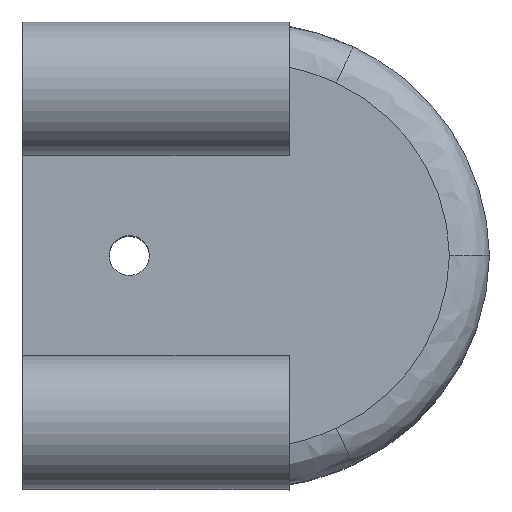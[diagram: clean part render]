
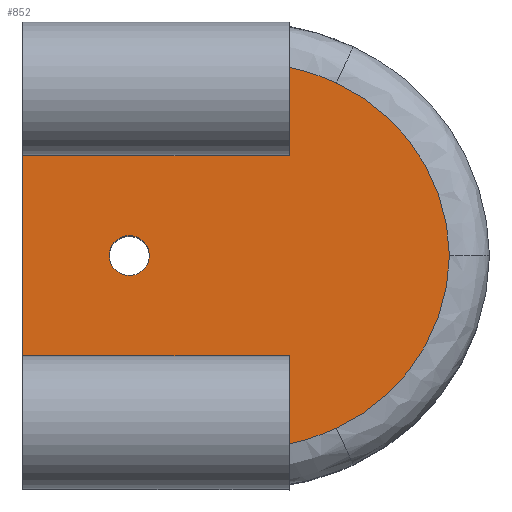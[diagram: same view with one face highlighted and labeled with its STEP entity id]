
A CAD part, top view. The second image highlights one B-rep face of the part: STEP entity #852.
In plain terms, the highlighted free-form (B-spline) face has degree [1, 1] with [2, 2] control points.
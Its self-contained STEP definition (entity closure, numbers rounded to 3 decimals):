
#112=CARTESIAN_POINT('',(27.142,12.291,-0.141));
#113=VERTEX_POINT('',#112);
#187=CARTESIAN_POINT('',(27.142,5.677,-0.141));
#188=VERTEX_POINT('',#187);
#203=CARTESIAN_POINT('',(7.142,5.677,-0.141));
#204=VERTEX_POINT('',#203);
#211=CARTESIAN_POINT('',(7.142,5.677,-0.141));
#212=DIRECTION('',(1.0,0.,0.0));
#213=VECTOR('',#212,20.);
#214=LINE('',#211,#213);
#215=EDGE_CURVE('',#204,#188,#214,.T.);
#280=CARTESIAN_POINT('',(27.142,5.677,-0.141));
#281=DIRECTION('',(0.,1.0,0.0));
#282=VECTOR('',#281,6.614);
#283=LINE('',#280,#282);
#284=EDGE_CURVE('',#188,#113,#283,.T.);
#308=CARTESIAN_POINT('',(27.142,-15.938,-0.141));
#309=VERTEX_POINT('',#308);
#442=CARTESIAN_POINT('',(27.142,-9.323,-0.141));
#443=VERTEX_POINT('',#442);
#452=CARTESIAN_POINT('',(7.142,-9.323,-0.141));
#453=VERTEX_POINT('',#452);
#454=CARTESIAN_POINT('',(27.142,-9.323,-0.141));
#455=DIRECTION('',(-1.0,0.,0.0));
#456=VECTOR('',#455,20.0);
#457=LINE('',#454,#456);
#458=EDGE_CURVE('',#443,#453,#457,.T.);
#544=CARTESIAN_POINT('',(27.142,-15.938,-0.141));
#545=DIRECTION('',(0.,1.0,0.0));
#546=VECTOR('',#545,6.614);
#547=LINE('',#544,#546);
#548=EDGE_CURVE('',#309,#443,#547,.T.);
#790=CARTESIAN_POINT('',(7.142,12.291,-0.141));
#791=CARTESIAN_POINT('',(39.142,12.291,-0.141));
#792=CARTESIAN_POINT('',(7.142,-15.938,-0.141));
#793=CARTESIAN_POINT('',(39.142,-15.938,-0.141));
#794=B_SPLINE_SURFACE_WITH_KNOTS('',1,1,((#790,#792),(#791,#793)),.UNSPECIFIED.,.F.,.F.,.U.,(2,2),(2,2),(0.0,32.),(0.0,28.229),.UNSPECIFIED.);
#795=ORIENTED_EDGE('',*,*,#284,.F.);
#796=ORIENTED_EDGE('',*,*,#215,.F.);
#797=CARTESIAN_POINT('',(7.142,-9.323,-0.141));
#798=DIRECTION('',(0.,1.0,0.0));
#799=VECTOR('',#798,15.);
#800=LINE('',#797,#799);
#801=EDGE_CURVE('',#453,#204,#800,.T.);
#802=ORIENTED_EDGE('',*,*,#801,.F.);
#803=ORIENTED_EDGE('',*,*,#458,.F.);
#804=ORIENTED_EDGE('',*,*,#548,.F.);
#805=CARTESIAN_POINT('',(30.671,-14.756,-0.141));
#806=VERTEX_POINT('',#805);
#807=CARTESIAN_POINT('',(23.542,0.677,-0.141));
#808=DIRECTION('',(0.,0.,1.0));
#809=DIRECTION('',(0.215,-0.977,0.));
#810=AXIS2_PLACEMENT_3D('',#807,#808,#809);
#811=CIRCLE('',#810,17.0);
#812=EDGE_CURVE('',#309,#806,#811,.T.);
#813=ORIENTED_EDGE('',*,*,#812,.T.);
#814=CARTESIAN_POINT('',(39.142,-1.823,-0.141));
#815=VERTEX_POINT('',#814);
#816=CARTESIAN_POINT('',(24.644,-1.568,-0.141));
#817=DIRECTION('',(0.,0.,1.0));
#818=DIRECTION('',(0.837,-0.546,0.));
#819=AXIS2_PLACEMENT_3D('',#816,#817,#818);
#820=CIRCLE('',#819,14.5);
#821=EDGE_CURVE('',#806,#815,#820,.T.);
#822=ORIENTED_EDGE('',*,*,#821,.T.);
#823=CARTESIAN_POINT('',(30.671,11.11,-0.141));
#824=VERTEX_POINT('',#823);
#825=CARTESIAN_POINT('',(24.644,-2.078,-0.141));
#826=DIRECTION('',(0.,0.,1.0));
#827=DIRECTION('',(0.837,0.546,0.));
#828=AXIS2_PLACEMENT_3D('',#825,#826,#827);
#829=CIRCLE('',#828,14.5);
#830=EDGE_CURVE('',#815,#824,#829,.T.);
#831=ORIENTED_EDGE('',*,*,#830,.T.);
#832=CARTESIAN_POINT('',(23.542,-4.323,-0.141));
#833=DIRECTION('',(0.,0.,1.));
#834=DIRECTION('',(0.215,0.977,0.));
#835=AXIS2_PLACEMENT_3D('',#832,#833,#834);
#836=CIRCLE('',#835,17.);
#837=EDGE_CURVE('',#824,#113,#836,.T.);
#838=ORIENTED_EDGE('',*,*,#837,.T.);
#839=EDGE_LOOP('',(#795,#796,#802,#803,#804,#813,#822,#831,#838));
#840=FACE_OUTER_BOUND('',#839,.T.);
#841=CARTESIAN_POINT('',(13.642,-1.823,-0.141));
#842=VERTEX_POINT('',#841);
#843=CARTESIAN_POINT('',(15.142,-1.823,-0.141));
#844=DIRECTION('',(0.0,0.0,1.0));
#845=DIRECTION('',(-1.0,0.0,0.0));
#846=AXIS2_PLACEMENT_3D('',#843,#844,#845);
#847=CIRCLE('',#846,1.5);
#848=EDGE_CURVE('',#842,#842,#847,.T.);
#849=ORIENTED_EDGE('',*,*,#848,.F.);
#850=EDGE_LOOP('',(#849));
#851=FACE_BOUND('',#850,.T.);
#852=ADVANCED_FACE('',(#840,#851),#794,.F.);
